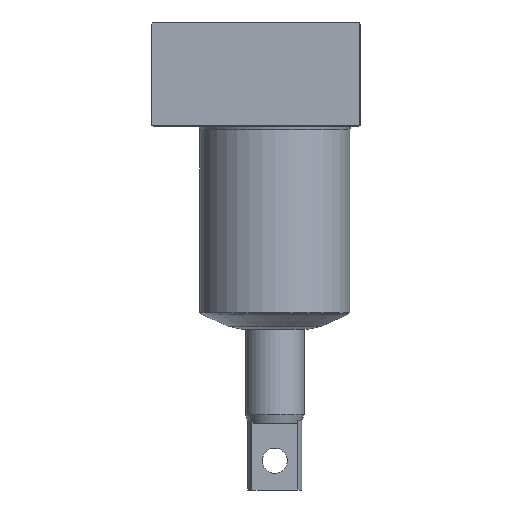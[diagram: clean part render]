
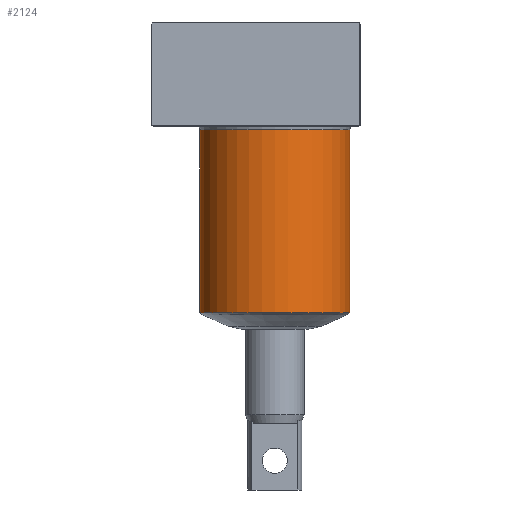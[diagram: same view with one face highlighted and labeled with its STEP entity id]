
A CAD part, front view. The second image highlights one B-rep face of the part: STEP entity #2124.
In plain terms, the highlighted cylindrical face has radius 17.95 mm (diameter 35.9 mm), a partial arc.
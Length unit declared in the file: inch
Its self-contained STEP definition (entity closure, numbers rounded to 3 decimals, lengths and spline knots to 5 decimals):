
#9 = CIRCLE ( 'NONE', #1042, 0.70669 ) ;
#19 = DIRECTION ( 'NONE',  ( 0., 0., -1. ) ) ;
#30 = EDGE_LOOP ( 'NONE', ( #409, #2128, #1623, #1946 ) ) ;
#70 = VERTEX_POINT ( 'NONE', #1616 ) ;
#81 = VECTOR ( 'NONE', #364, 39.37008 ) ;
#163 = CARTESIAN_POINT ( 'NONE',  ( 0.70669, 0., 1.87795 ) ) ;
#191 = LINE ( 'NONE', #2091, #81 ) ;
#195 = CIRCLE ( 'NONE', #1569, 0.70669 ) ;
#335 = DIRECTION ( 'NONE',  ( -1., 0., 0. ) ) ;
#350 = LINE ( 'NONE', #675, #1685 ) ;
#351 = EDGE_CURVE ( 'NONE', #2084, #70, #195, .T. ) ;
#364 = DIRECTION ( 'NONE',  ( 0., 0., -1. ) ) ;
#409 = ORIENTED_EDGE ( 'NONE', *, *, #780, .F. ) ;
#527 = AXIS2_PLACEMENT_3D ( 'NONE', #2036, #19, #1377 ) ;
#675 = CARTESIAN_POINT ( 'NONE',  ( 0.70669, 0., 1.90945 ) ) ;
#688 = CYLINDRICAL_SURFACE ( 'NONE', #527, 0.70669 ) ;
#780 = EDGE_CURVE ( 'NONE', #2087, #70, #350, .T. ) ;
#882 = DIRECTION ( 'NONE',  ( 0., 0., -1. ) ) ;
#1008 = DIRECTION ( 'NONE',  ( 0., 0., 1. ) ) ;
#1042 = AXIS2_PLACEMENT_3D ( 'NONE', #1883, #882, #1404 ) ;
#1258 = VERTEX_POINT ( 'NONE', #2050 ) ;
#1368 = EDGE_CURVE ( 'NONE', #2087, #1258, #9, .T. ) ;
#1377 = DIRECTION ( 'NONE',  ( -1., 0., 0. ) ) ;
#1394 = EDGE_CURVE ( 'NONE', #1258, #2084, #191, .T. ) ;
#1404 = DIRECTION ( 'NONE',  ( 1., 0., 0. ) ) ;
#1569 = AXIS2_PLACEMENT_3D ( 'NONE', #1854, #1008, #335 ) ;
#1616 = CARTESIAN_POINT ( 'NONE',  ( 0.70669, 0., 0.1545 ) ) ;
#1623 = ORIENTED_EDGE ( 'NONE', *, *, #1394, .T. ) ;
#1685 = VECTOR ( 'NONE', #2046, 39.37008 ) ;
#1851 = CARTESIAN_POINT ( 'NONE',  ( -0.70669, 0., 0.1545 ) ) ;
#1854 = CARTESIAN_POINT ( 'NONE',  ( 0., 0., 0.1545 ) ) ;
#1883 = CARTESIAN_POINT ( 'NONE',  ( 0., 0., 1.87795 ) ) ;
#1946 = ORIENTED_EDGE ( 'NONE', *, *, #351, .T. ) ;
#2036 = CARTESIAN_POINT ( 'NONE',  ( 0., 0., 1.90945 ) ) ;
#2046 = DIRECTION ( 'NONE',  ( 0., 0., -1. ) ) ;
#2050 = CARTESIAN_POINT ( 'NONE',  ( -0.70669, 0., 1.87795 ) ) ;
#2084 = VERTEX_POINT ( 'NONE', #1851 ) ;
#2087 = VERTEX_POINT ( 'NONE', #163 ) ;
#2091 = CARTESIAN_POINT ( 'NONE',  ( -0.70669, 0., 1.90945 ) ) ;
#2124 = ADVANCED_FACE ( 'NONE', ( #2201 ), #688, .T. ) ;
#2128 = ORIENTED_EDGE ( 'NONE', *, *, #1368, .T. ) ;
#2201 = FACE_OUTER_BOUND ( 'NONE', #30, .T. ) ;
